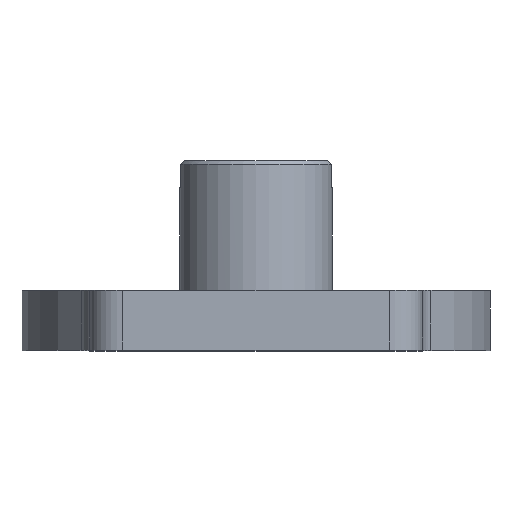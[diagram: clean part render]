
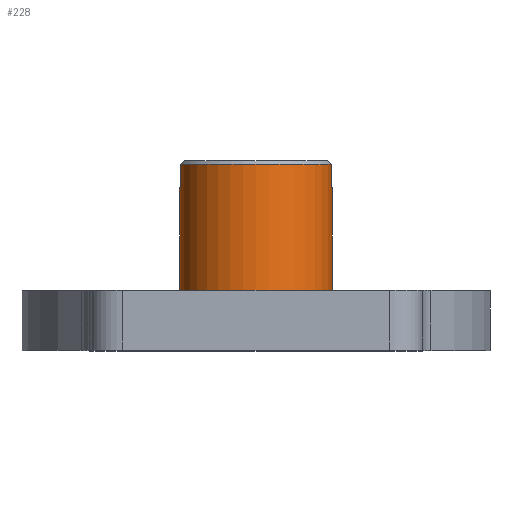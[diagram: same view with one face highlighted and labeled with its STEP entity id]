
A CAD part, top view. The second image highlights one B-rep face of the part: STEP entity #228.
In plain terms, the highlighted cylindrical face has radius 11.5 mm (diameter 23 mm), a full revolution.
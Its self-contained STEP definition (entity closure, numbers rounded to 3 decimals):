
#228 = ADVANCED_FACE( '', ( #409, #410 ), #411, .T. );
#409 = FACE_OUTER_BOUND( '', #614, .T. );
#410 = FACE_OUTER_BOUND( '', #615, .T. );
#411 = CYLINDRICAL_SURFACE( '', #616, 11.5 );
#614 = EDGE_LOOP( '', ( #1099 ) );
#615 = EDGE_LOOP( '', ( #1100, #1101, #1102, #1103, #1104, #1105, #1106, #1107 ) );
#616 = AXIS2_PLACEMENT_3D( '', #1108, #1109, #1110 );
#1099 = ORIENTED_EDGE( '', *, *, #1438, .T. );
#1100 = ORIENTED_EDGE( '', *, *, #1444, .F. );
#1101 = ORIENTED_EDGE( '', *, *, #1445, .T. );
#1102 = ORIENTED_EDGE( '', *, *, #1420, .F. );
#1103 = ORIENTED_EDGE( '', *, *, #1446, .F. );
#1104 = ORIENTED_EDGE( '', *, *, #1447, .F. );
#1105 = ORIENTED_EDGE( '', *, *, #1448, .T. );
#1106 = ORIENTED_EDGE( '', *, *, #1449, .F. );
#1107 = ORIENTED_EDGE( '', *, *, #1437, .F. );
#1108 = CARTESIAN_POINT( '', ( 0., 0., 28.5 ) );
#1109 = DIRECTION( '', ( 0., 0., 1. ) );
#1110 = DIRECTION( '', ( -1., 0., 0. ) );
#1420 = EDGE_CURVE( '', #1718, #1620, #1719, .T. );
#1437 = EDGE_CURVE( '', #1744, #1742, #1746, .T. );
#1438 = EDGE_CURVE( '', #1747, #1747, #1748, .F. );
#1444 = EDGE_CURVE( '', #1756, #1744, #1757, .F. );
#1445 = EDGE_CURVE( '', #1756, #1620, #1758, .T. );
#1446 = EDGE_CURVE( '', #1759, #1718, #1760, .T. );
#1447 = EDGE_CURVE( '', #1761, #1759, #1762, .F. );
#1448 = EDGE_CURVE( '', #1761, #1611, #1763, .T. );
#1449 = EDGE_CURVE( '', #1742, #1611, #1764, .T. );
#1611 = VERTEX_POINT( '', #1963 );
#1620 = VERTEX_POINT( '', #1977 );
#1718 = VERTEX_POINT( '', #2164 );
#1719 = LINE( '', #2165, #2166 );
#1742 = VERTEX_POINT( '', #2208 );
#1744 = VERTEX_POINT( '', #2211 );
#1746 = CIRCLE( '', #2214, 11.5 );
#1747 = VERTEX_POINT( '', #2215 );
#1748 = CIRCLE( '', #2216, 11.5 );
#1756 = VERTEX_POINT( '', #2224 );
#1757 = LINE( '', #2225, #2226 );
#1758 = CIRCLE( '', #2227, 11.5 );
#1759 = VERTEX_POINT( '', #2228 );
#1760 = CIRCLE( '', #2229, 11.5 );
#1761 = VERTEX_POINT( '', #2230 );
#1762 = LINE( '', #2231, #2232 );
#1763 = CIRCLE( '', #2233, 11.5 );
#1764 = LINE( '', #2234, #2235 );
#1963 = CARTESIAN_POINT( '', ( 2.025, 11.32, 0.5 ) );
#1977 = CARTESIAN_POINT( '', ( -2.025, -11.32, 0.5 ) );
#2164 = CARTESIAN_POINT( '', ( -2.025, -11.32, 4.05 ) );
#2165 = CARTESIAN_POINT( '', ( -2.025, -11.32, 28.5 ) );
#2166 = VECTOR( '', #2589, 1000. );
#2208 = CARTESIAN_POINT( '', ( 2.025, 11.32, 4.05 ) );
#2211 = CARTESIAN_POINT( '', ( -2.025, 11.32, 4.05 ) );
#2214 = AXIS2_PLACEMENT_3D( '', #2618, #2619, #2620 );
#2215 = CARTESIAN_POINT( '', ( 11.5, 0., 28. ) );
#2216 = AXIS2_PLACEMENT_3D( '', #2621, #2622, #2623 );
#2224 = CARTESIAN_POINT( '', ( -2.025, 11.32, 0.5 ) );
#2225 = CARTESIAN_POINT( '', ( -2.025, 11.32, 28.5 ) );
#2226 = VECTOR( '', #2639, 1000. );
#2227 = AXIS2_PLACEMENT_3D( '', #2640, #2641, #2642 );
#2228 = CARTESIAN_POINT( '', ( 2.025, -11.32, 4.05 ) );
#2229 = AXIS2_PLACEMENT_3D( '', #2643, #2644, #2645 );
#2230 = CARTESIAN_POINT( '', ( 2.025, -11.32, 0.5 ) );
#2231 = CARTESIAN_POINT( '', ( 2.025, -11.32, 28.5 ) );
#2232 = VECTOR( '', #2646, 1000. );
#2233 = AXIS2_PLACEMENT_3D( '', #2647, #2648, #2649 );
#2234 = CARTESIAN_POINT( '', ( 2.025, 11.32, 28.5 ) );
#2235 = VECTOR( '', #2650, 1000. );
#2589 = DIRECTION( '', ( 0., 0., -1. ) );
#2618 = CARTESIAN_POINT( '', ( 0., 0., 4.05 ) );
#2619 = DIRECTION( '', ( 0., 0., -1. ) );
#2620 = DIRECTION( '', ( -1., 0., 0. ) );
#2621 = CARTESIAN_POINT( '', ( 0., 0., 28. ) );
#2622 = DIRECTION( '', ( 0., 0., 1. ) );
#2623 = DIRECTION( '', ( 1., 0., 0. ) );
#2639 = DIRECTION( '', ( 0., 0., -1. ) );
#2640 = CARTESIAN_POINT( '', ( 0., 0., 0.5 ) );
#2641 = DIRECTION( '', ( 0., 0., 1. ) );
#2642 = DIRECTION( '', ( 1., 0., 0. ) );
#2643 = CARTESIAN_POINT( '', ( 0., 0., 4.05 ) );
#2644 = DIRECTION( '', ( 0., 0., -1. ) );
#2645 = DIRECTION( '', ( -1., 0., 0. ) );
#2646 = DIRECTION( '', ( 0., 0., -1. ) );
#2647 = CARTESIAN_POINT( '', ( 0., 0., 0.5 ) );
#2648 = DIRECTION( '', ( 0., 0., 1. ) );
#2649 = DIRECTION( '', ( 1., 0., 0. ) );
#2650 = DIRECTION( '', ( 0., 0., -1. ) );
